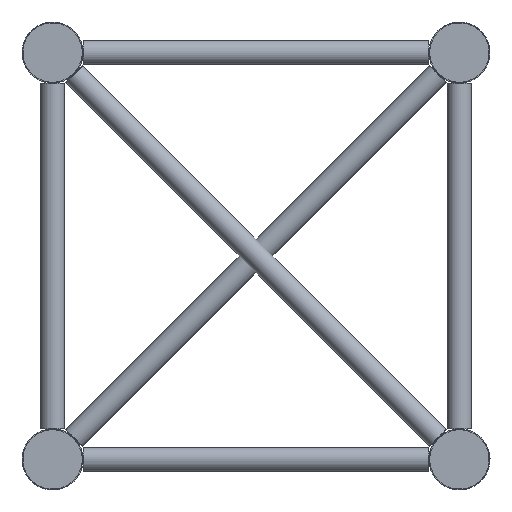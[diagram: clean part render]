
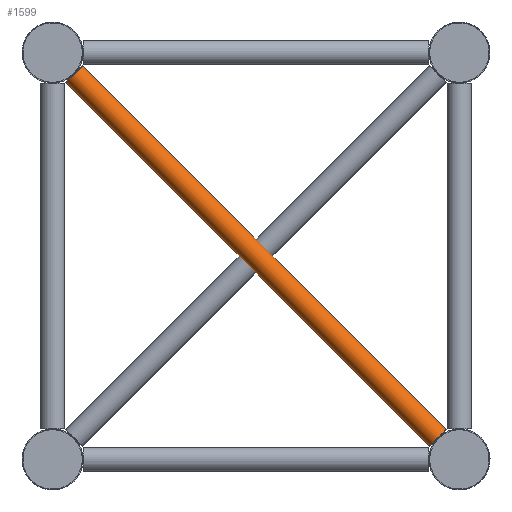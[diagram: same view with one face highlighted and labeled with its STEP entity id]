
A CAD part, left-side view. The second image highlights one B-rep face of the part: STEP entity #1599.
In plain terms, the highlighted cylindrical face has radius 10 mm (diameter 20 mm), a full revolution.
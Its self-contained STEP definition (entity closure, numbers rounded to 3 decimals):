
#185=CYLINDRICAL_SURFACE('',#1796,10.);
#275=FACE_BOUND('',#584,.T.);
#384=FACE_OUTER_BOUND('',#583,.T.);
#583=EDGE_LOOP('',(#1307));
#584=EDGE_LOOP('',(#1308));
#652=CIRCLE('',#1795,10.);
#653=CIRCLE('',#1797,10.);
#784=VERTEX_POINT('',#3262);
#785=VERTEX_POINT('',#3265);
#948=EDGE_CURVE('',#784,#784,#652,.T.);
#949=EDGE_CURVE('',#785,#785,#653,.T.);
#1307=ORIENTED_EDGE('',*,*,#948,.T.);
#1308=ORIENTED_EDGE('',*,*,#949,.T.);
#1599=ADVANCED_FACE('',(#384,#275),#185,.T.);
#1795=AXIS2_PLACEMENT_3D('',#3263,#2213,#2214);
#1796=AXIS2_PLACEMENT_3D('',#3264,#2215,#2216);
#1797=AXIS2_PLACEMENT_3D('',#3266,#2217,#2218);
#2213=DIRECTION('center_axis',(0.,0.707,
0.707));
#2214=DIRECTION('ref_axis',(0.,0.707,-0.707));
#2215=DIRECTION('center_axis',(0.,0.707,
0.707));
#2216=DIRECTION('ref_axis',(0.,0.707,-0.707));
#2217=DIRECTION('center_axis',(0.,-0.707,
-0.707));
#2218=DIRECTION('ref_axis',(0.,0.707,-0.707));
#3262=CARTESIAN_POINT('',(60.,10.967,-313.891));
#3263=CARTESIAN_POINT('Origin',(60.,18.038,-320.962));
#3264=CARTESIAN_POINT('Origin',(60.,169.5,-169.5));
#3265=CARTESIAN_POINT('',(60.,313.891,-10.967));
#3266=CARTESIAN_POINT('Origin',(60.,320.962,-18.038));
